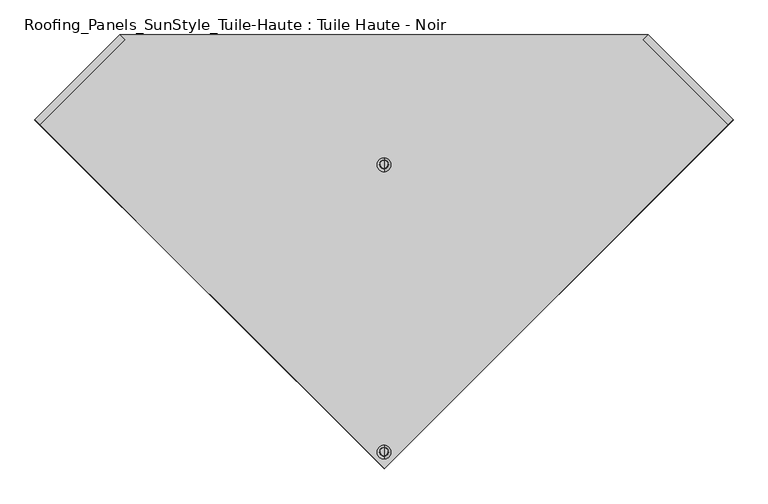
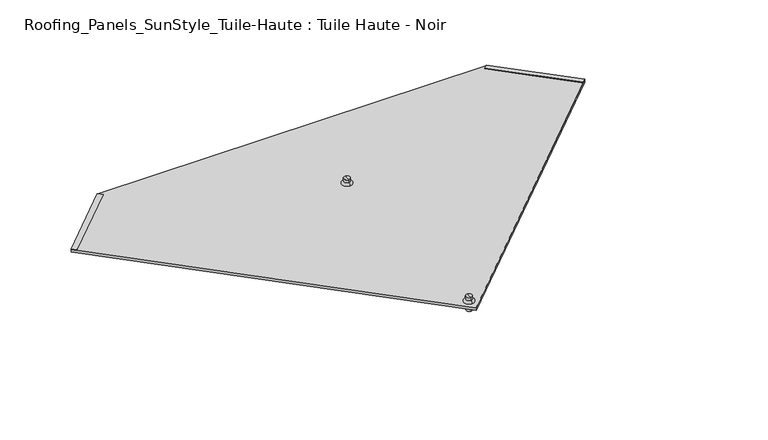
"""IFC4 building model written with IfcOpenShell, lengths in millimetres: proxy geometry, Roofing_Panels_SunStyle_Tuile-Haute : Tuile Haute - Noir."""

import ifcopenshell
import ifcopenshell.guid

model = None  # the IFC model being written
_history = None  # IfcOwnerHistory: only IFC2X3 demands one
_inside = {}  # id of a spatial element -> (the spatial element, [elements in it])
_under = {}  # id of a project, library or spatial element -> (it, [spatial elements below it])
_declared = {}  # id of a project -> (the project, [libraries it declares])
_typed = {}  # id of a type object -> (the type object, [elements of that type])
_made_of = {}  # id of a material, layer set ... -> (it, [elements and type objects made of it])


def new_model(schema):
    """Start an empty IFC model of exactly this schema.

    Asked for "IFC4X3", IfcOpenShell would pick the latest addendum, in which some entities
    have other attributes; the version numbers below select the first issue.
    IFC2X3 requires an IfcOwnerHistory on every rooted entity: one is made here for all.
    """
    global model, _history
    if schema == "IFC4X3":
        model = ifcopenshell.file(schema_version=(4, 3, 0, 0))
    else:
        model = ifcopenshell.file(schema=schema)
    _inside.clear()
    _under.clear()
    _declared.clear()
    _typed.clear()
    _made_of.clear()
    _history = None
    if model.schema == "IFC2X3":
        org = make("IfcOrganization", Name="unknown")
        user = make(
            "IfcPersonAndOrganization",
            ThePerson=make("IfcPerson", FamilyName="unknown"),
            TheOrganization=org,
        )
        app = make(
            "IfcApplication",
            ApplicationDeveloper=org,
            Version="unknown",
            ApplicationFullName="unknown",
            ApplicationIdentifier="unknown",
        )
        _history = make(
            "IfcOwnerHistory",
            OwningUser=user,
            OwningApplication=app,
            ChangeAction="ADDED",
            CreationDate=0,
        )
    return model


def make(cls, **values):
    """One entity of the class cls with the attributes given. An attribute that is None is left unset."""
    return model.create_entity(
        cls, **{name: value for name, value in values.items() if value is not None}
    )


def rooted(cls, **values):
    """An entity with a GlobalId (a new one), such as an element, a storey or a relation."""
    return make(cls, GlobalId=ifcopenshell.guid.new(), OwnerHistory=_history, **values)


def si_unit(unit_type, name, prefix=None):
    """IfcSIUnit, for example si_unit("LENGTHUNIT", "METRE", prefix="MILLI")."""
    return make("IfcSIUnit", UnitType=unit_type, Prefix=prefix, Name=name)


def assignment(units):
    """IfcUnitAssignment: the units of a project."""
    return None if units is None else make("IfcUnitAssignment", Units=units)


def point(xyz):
    """IfcCartesianPoint."""
    return None if xyz is None else make("IfcCartesianPoint", Coordinates=xyz)


def direction(xyz):
    """IfcDirection."""
    return None if xyz is None else make("IfcDirection", DirectionRatios=xyz)


def frame(location, z_axis=None, x_axis=None):
    """IfcAxis2Placement3D, a coordinate frame: its origin and axes. An axis left out is left unset."""
    return make(
        "IfcAxis2Placement3D",
        Location=point(location),
        Axis=direction(z_axis),
        RefDirection=direction(x_axis),
    )


def frame_2d(location, x_axis=None):
    """IfcAxis2Placement2D, a coordinate frame in the plane: its origin and x axis."""
    return make(
        "IfcAxis2Placement2D", Location=point(location), RefDirection=direction(x_axis)
    )


def origin():
    """The frame at (0, 0, 0) with its axes left unset."""
    return frame((0.0, 0.0, 0.0))


def place(relative_to, where):
    """IfcLocalPlacement: puts the frame where relative to a parent placement (None: the world)."""
    return make(
        "IfcLocalPlacement", PlacementRelTo=relative_to, RelativePlacement=where
    )


def context(
    kind, dimensions, precision=None, world=None, true_north=None, identifier=None
):
    """IfcGeometricRepresentationContext, for example the 3D "Model" context."""
    return make(
        "IfcGeometricRepresentationContext",
        ContextIdentifier=identifier,
        ContextType=kind,
        CoordinateSpaceDimension=dimensions,
        Precision=precision,
        WorldCoordinateSystem=world,
        TrueNorth=true_north,
    )


def project(units=None, contexts=None):
    """IfcProject with its units and contexts."""
    return rooted(
        "IfcProject",
        Name="project",
        RepresentationContexts=contexts,
        UnitsInContext=assignment(units),
    )


def spatial(cls, under=None, at=None, **own):
    """A site, building, storey or space (cls), placed at a placement, below another one or the project."""
    s = rooted(cls, ObjectPlacement=at, **own)
    if under is not None:
        _under.setdefault(under.id(), (under, []))[1].append(s)
    return s


def polyline(points):
    """IfcPolyline through the points."""
    return make("IfcPolyline", Points=[point(p) for p in points])


def circle_curve(where, radius):
    """IfcCircle in the frame where."""
    return make("IfcCircle", Position=where, Radius=radius)


def ellipse_curve(where, semi_axis1, semi_axis2):
    """IfcEllipse in the frame where."""
    return make(
        "IfcEllipse", Position=where, SemiAxis1=semi_axis1, SemiAxis2=semi_axis2
    )


def trimmed(basis, trim1, trim2, sense, master):
    """IfcTrimmedCurve: the piece of a basis curve between two trims."""
    return make(
        "IfcTrimmedCurve",
        BasisCurve=basis,
        Trim1=trim1,
        Trim2=trim2,
        SenseAgreement=sense,
        MasterRepresentation=master,
    )


def segment(curve, same_sense, transition):
    """IfcCompositeCurveSegment."""
    return make(
        "IfcCompositeCurveSegment",
        Transition=transition,
        SameSense=same_sense,
        ParentCurve=curve,
    )


def composite_curve(segments, self_intersect=None):
    """IfcCompositeCurve: segments joined end to end."""
    return make("IfcCompositeCurve", Segments=segments, SelfIntersect=self_intersect)


def outline(outer, holes=None, kind="AREA"):
    """IfcArbitraryClosedProfileDef: a profile drawn as a closed curve; with holes, ...WithVoids."""
    if holes is None:
        return make("IfcArbitraryClosedProfileDef", ProfileType=kind, OuterCurve=outer)
    return make(
        "IfcArbitraryProfileDefWithVoids",
        ProfileType=kind,
        OuterCurve=outer,
        InnerCurves=holes,
    )


def extrude(swept, where, along, depth):
    """IfcExtrudedAreaSolid: the profile swept, set in the frame where, extruded along a direction by depth."""
    return make(
        "IfcExtrudedAreaSolid",
        SweptArea=swept,
        Position=where,
        ExtrudedDirection=direction(along),
        Depth=depth,
    )


def shape(context_of_items, identifier, shape_type, items):
    """IfcShapeRepresentation: the items that make up one representation, for example the "Body"."""
    return make(
        "IfcShapeRepresentation",
        ContextOfItems=context_of_items,
        RepresentationIdentifier=identifier,
        RepresentationType=shape_type,
        Items=items,
    )


def source(mapping_origin, context_of_items, identifier, shape_type, items):
    """IfcRepresentationMap: a shape defined once, which mapped items show again and again."""
    return make(
        "IfcRepresentationMap",
        MappingOrigin=mapping_origin,
        MappedRepresentation=shape(context_of_items, identifier, shape_type, items),
    )


def transform(
    local_origin,
    x_axis=None,
    y_axis=None,
    z_axis=None,
    scale=None,
    scale2=None,
    scale3=None,
    uniform=True,
):
    """IfcCartesianTransformationOperator3D, or its non-uniform kind. x_axis, y_axis, z_axis: its Axis1, 2, 3."""
    if uniform:
        return make(
            "IfcCartesianTransformationOperator3D",
            Axis1=direction(x_axis),
            Axis2=direction(y_axis),
            LocalOrigin=point(local_origin),
            Scale=scale,
            Axis3=direction(z_axis),
        )
    return make(
        "IfcCartesianTransformationOperator3DnonUniform",
        Axis1=direction(x_axis),
        Axis2=direction(y_axis),
        LocalOrigin=point(local_origin),
        Scale=scale,
        Axis3=direction(z_axis),
        Scale2=scale2,
        Scale3=scale3,
    )


def mapped(mapping_source, mapping_target):
    """IfcMappedItem: shows the shape of a source again, moved by a transform."""
    return make(
        "IfcMappedItem", MappingSource=mapping_source, MappingTarget=mapping_target
    )


def made_of(thing, what):
    """Note that an element or type object is made of a material, layer set ...; save() writes the relation."""
    if what is not None:
        _made_of.setdefault(what.id(), (what, []))[1].append(thing)
    return thing


def element(
    cls,
    number,
    at=None,
    inside=None,
    cuts=None,
    type_object=None,
    material=None,
    context=None,
    identifier="Body",
    shape_type=None,
    held_by="IfcProductDefinitionShape",
    body=None,
    shapes=None,
    **own,
):
    """One element of the class cls, such as IfcWall. Its Tag is "e" and its number.

    at: its placement. inside: the storey or other place that contains it. cuts: it is an
    opening in that element (IfcRelVoidsElement). A single representation is given by context,
    identifier, shape_type and body (its items); several are given by shapes. held_by: the class
    of the entity that holds the representations. save() writes the other relations.
    """
    e = rooted(cls, Tag="e%d" % number, ObjectPlacement=at, **own)
    if body is not None:
        shapes = [shape(context, identifier, shape_type, body)]
    if shapes is not None:
        e.Representation = make(held_by, Representations=shapes)
    if inside is not None:
        _inside.setdefault(inside.id(), (inside, []))[1].append(e)
    if cuts is not None:
        rooted(
            "IfcRelVoidsElement", RelatingBuildingElement=cuts, RelatedOpeningElement=e
        )
    if type_object is not None:
        _typed.setdefault(type_object.id(), (type_object, []))[1].append(e)
    return made_of(e, material)


def aggregate(whole, parts):
    """IfcRelAggregates: a whole, such as a stair, and the parts it consists of."""
    return rooted("IfcRelAggregates", RelatingObject=whole, RelatedObjects=parts)


def save(model, path):
    """Write the relations noted so far, then the file.

    IfcRelAggregates (storeys below a building ...), IfcRelContainedInSpatialStructure (elements
    in a storey), IfcRelDefinesByType, IfcRelAssociatesMaterial and IfcRelDeclares: one each for
    every whole, place, type object, material and project.
    """
    for whole, parts in _under.values():
        aggregate(whole, parts)
    for where, things in _inside.values():
        rooted(
            "IfcRelContainedInSpatialStructure",
            RelatedElements=things,
            RelatingStructure=where,
        )
    for kind, things in _typed.values():
        rooted("IfcRelDefinesByType", RelatedObjects=things, RelatingType=kind)
    for what, things in _made_of.values():
        rooted("IfcRelAssociatesMaterial", RelatedObjects=things, RelatingMaterial=what)
    for by, libraries in _declared.values():
        rooted("IfcRelDeclares", RelatingContext=by, RelatedDefinitions=libraries)
    model.write(path)


def plane_surface(at):
    """IfcPlane: the flat surface through the origin of the frame at, square to its z axis."""
    return make("IfcPlane", Position=at)


def cylinder_surface(at, radius):
    """IfcCylindricalSurface: all points at the distance radius from the z axis of the frame at."""
    return make("IfcCylindricalSurface", Position=at, Radius=radius)


def revolved_surface(curve, axis_point, axis_direction):
    """IfcSurfaceOfRevolution: the curve turned about the line through axis_point along axis_direction."""
    return make(
        "IfcSurfaceOfRevolution",
        SweptCurve=make("IfcArbitraryOpenProfileDef", ProfileType="CURVE", Curve=curve),
        AxisPosition=make("IfcAxis1Placement", Location=point(axis_point), Axis=direction(axis_direction)),
    )


def advanced_brep(points, edges, surfaces, faces):
    """IfcAdvancedBrep: a solid bounded by faces that lie on surfaces and meet in shared edges.

    An edge is (start, end): straight between two places in points (the first is 0);
    or (start, end, curve); or (start, end, curve, False) where it runs against its curve.
    A face is (place in surfaces, loops), or (place, loops, False) where it looks against
    its surface's normal. A loop lists edges by number (the first is 1), with a minus sign
    where the edge is run from its end to its start. The first loop is the outer one.
    """
    corners = [point(p) for p in points]
    vertices = [make("IfcVertexPoint", VertexGeometry=c) for c in corners]
    made = []
    for start, end, *more in edges:
        made.append(
            make(
                "IfcEdgeCurve",
                EdgeStart=vertices[start],
                EdgeEnd=vertices[end],
                EdgeGeometry=more[0] if more else make("IfcPolyline", Points=[corners[start], corners[end]]),
                SameSense=more[1] if len(more) > 1 else True,
            )
        )
    hull = []
    for where, loops, *sense in faces:
        bounds = []
        for j, loop in enumerate(loops):
            ring = [make("IfcOrientedEdge", EdgeElement=made[abs(k) - 1], Orientation=k > 0) for k in loop]
            bounds.append(
                make(
                    "IfcFaceOuterBound" if j == 0 else "IfcFaceBound",
                    Bound=make("IfcEdgeLoop", EdgeList=ring),
                    Orientation=True,
                )
            )
        hull.append(make("IfcAdvancedFace", Bounds=bounds, FaceSurface=surfaces[where], SameSense=sense[0] if sense else True))
    return make("IfcAdvancedBrep", Outer=make("IfcClosedShell", CfsFaces=hull))


def roofing_panels_sunstyle_tuile_haute_tuile_haute_noir_3c2a6519(model_context):
    return source(origin(), model_context, "Body", "SolidModel", [
        extrude(outline(polyline([(0.0, -11.9999999), (0.0, 0.0), (211.9535765, 0.0), (211.9535765, -11.9999999), (0.0, -11.9999999)])), frame((-615.2694709, -0.1135393, 16.3055258), z_axis=(0.0, 0.01674516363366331, 0.9998597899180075), x_axis=(0.7071563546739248, 0.7069580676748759, -0.011839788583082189)), (0.0, 0.0, 1.0), 1.5),
        advanced_brep(
        [(0.0, -85.8978443, 17.7421994), (0.0, -72.5647638, 17.5189035), (0.0, -72.9330728, -4.4729659), (0.0, -86.2661534, -4.2496699), (0.0, -91.3970731, 17.8342978), (0.0, -67.0655349, 17.4268051), (0.0, -86.4480768, 22.7481046), (0.0, -71.8472139, 22.5035765), (0.0, -79.0136169, 30.6287287), (0.0, -71.7131854, 30.5064647), (0.0, -86.3140484, 30.7509928), (0.0, -79.5996131, -4.3613179)],
        [
            (0, 1, circle_curve(frame((0.0, -79.231304, 17.6305515), z_axis=(0.0, -0.016745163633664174, -0.9998597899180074), x_axis=(0.0, 0.9998597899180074, -0.016745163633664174)), 6.6674751)),
            (1, 2),
            (2, 3, circle_curve(frame((0.0, -79.5996131, -4.3613179), z_axis=(0.0, 0.016745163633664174, 0.9998597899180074), x_axis=(0.0, 0.9998597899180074, -0.016745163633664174)), 6.6674751)),
            (3, 0),
            (1, 0, circle_curve(frame((0.0, -79.231304, 17.6305515), z_axis=(0.0, -0.016745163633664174, -0.9998597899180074), x_axis=(0.0, 0.9998597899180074, -0.016745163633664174)), 6.6674751)),
            (3, 2, circle_curve(frame((0.0, -79.5996131, -4.3613179), z_axis=(0.0, 0.016745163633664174, 0.9998597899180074), x_axis=(0.0, 0.9998597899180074, -0.016745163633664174)), 6.6674751)),
            (4, 5, circle_curve(frame((0.0, -79.231304, 17.6305515), z_axis=(0.0, -0.016745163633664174, -0.9998597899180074), x_axis=(0.0, 0.9998597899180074, -0.016745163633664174)), 12.1674751)),
            (5, 1),
            (0, 4),
            (5, 4, circle_curve(frame((0.0, -79.231304, 17.6305515), z_axis=(0.0, -0.016745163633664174, -0.9998597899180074), x_axis=(0.0, 0.9998597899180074, -0.016745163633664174)), 12.1674751)),
            (6, 7, circle_curve(frame((0.0, -79.1476454, 22.6258405), z_axis=(0.0, -0.016745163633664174, -0.9998597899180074), x_axis=(0.0, 0.9998597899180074, -0.016745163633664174)), 7.3014552)),
            (7, 5, circle_curve(frame((0.0, -72.1514118, 17.4268051), z_axis=(-1.0, 0.0, 0.0), x_axis=(0.0, -1.0, 0.0)), 5.0858769)),
            (4, 6, circle_curve(frame((0.0, -86.3140484, 17.663994), z_axis=(-1.0, 0.0, 0.0), x_axis=(0.0, 0.9994391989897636, -0.03348563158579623)), 5.0858769)),
            (7, 6, circle_curve(frame((0.0, -79.1476454, 22.6258405), z_axis=(0.0, -0.016745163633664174, -0.9998597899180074), x_axis=(0.0, 0.9998597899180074, -0.016745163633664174)), 7.3014552)),
            (8, 9),
            (9, 10, circle_curve(frame((0.0, -79.0136169, 30.6287287), z_axis=(0.0, 0.016745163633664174, 0.9998597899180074), x_axis=(0.0, 0.9998597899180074, -0.016745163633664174)), 7.3014552)),
            (10, 8),
            (10, 9, circle_curve(frame((0.0, -79.0136169, 30.6287287), z_axis=(0.0, 0.016745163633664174, 0.9998597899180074), x_axis=(0.0, 0.9998597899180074, -0.016745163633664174)), 7.3014552)),
            (2, 11),
            (11, 3),
            (9, 7),
            (6, 10),
        ],
        [
            cylinder_surface(frame((0.0, -79.0136169, 30.6287287), z_axis=(0.0, 0.016745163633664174, 0.9998597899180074), x_axis=(0.0, 0.9998597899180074, -0.016745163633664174)), 6.6674751),
            plane_surface(frame((0.0, -79.231304, 17.6305515), z_axis=(0.0, -0.016745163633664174, -0.9998597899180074), x_axis=(0.0, 0.9998597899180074, -0.016745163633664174))),
            revolved_surface(trimmed(ellipse_curve(frame((0.0, -72.1514118, 17.4268051), z_axis=(1.0, 0.0, 0.0), x_axis=(0.0, -1.0, 0.0)), 5.0858769, 5.0858769), [point((0.0, -67.0655349, 17.4268051))], [point((0.0, -71.8472139, 22.5035765))], True, "CARTESIAN"), (0.0, -79.0136169, 30.6287287), (0.0, 0.016745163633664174, 0.9998597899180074)),
            plane_surface(frame((0.0, -79.0136169, 30.6287287), z_axis=(0.0, 0.016745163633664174, 0.9998597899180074), x_axis=(0.0, 0.9998597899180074, -0.016745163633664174))),
            plane_surface(frame((0.0, -79.5996131, -4.3613179), z_axis=(0.0, -0.016745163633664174, -0.9998597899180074), x_axis=(0.0, 0.9998597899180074, -0.016745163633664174))),
            cylinder_surface(frame((0.0, -79.0136169, 30.6287287), z_axis=(0.0, 0.016745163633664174, 0.9998597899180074), x_axis=(0.0, 0.9998597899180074, -0.016745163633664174)), 7.3014552),
        ],
        [
            (0, [[1, 2, 3, 4]]),
            (0, [[5, -4, 6, -2]]),
            (1, [[7, 8, -1, 9]]),
            (1, [[10, -9, -5, -8]]),
            (2, [[11, 12, -7, 13]]),
            (2, [[14, -13, -10, -12]]),
            (3, [[15, 16, 17]]),
            (3, [[-17, 18, -15]]),
            (4, [[-3, 19, 20]]),
            (4, [[-6, -20, -19]]),
            (5, [[-16, 21, -11, 22]]),
            (5, [[-18, -22, -14, -21]]),
        ],
    ),
        advanced_brep(
        [(0.0, -592.202006, 26.2215343), (0.0, -578.8689254, 25.9982384), (0.0, -579.2372345, 4.0063691), (0.0, -592.5703151, 4.229665), (0.0, -597.7012348, 26.3136327), (0.0, -573.3696966, 25.90614), (0.0, -592.7522385, 31.2274395), (0.0, -578.1513756, 30.9829114), (0.0, -585.3177786, 39.1080636), (0.0, -578.0173471, 38.9857996), (0.0, -592.6182101, 39.2303277), (0.0, -585.9037748, 4.118017)],
        [
            (0, 1, circle_curve(frame((0.0, -585.5354657, 26.1098864), z_axis=(0.0, -0.016745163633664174, -0.9998597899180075), x_axis=(0.0, 0.9998597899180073, -0.01674516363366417)), 6.6674751)),
            (1, 2),
            (2, 3, circle_curve(frame((0.0, -585.9037748, 4.118017), z_axis=(0.0, 0.016745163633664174, 0.9998597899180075), x_axis=(0.0, 0.9998597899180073, -0.01674516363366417)), 6.6674751)),
            (3, 0),
            (1, 0, circle_curve(frame((0.0, -585.5354657, 26.1098864), z_axis=(0.0, -0.016745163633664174, -0.9998597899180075), x_axis=(0.0, 0.9998597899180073, -0.01674516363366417)), 6.6674751)),
            (3, 2, circle_curve(frame((0.0, -585.9037748, 4.118017), z_axis=(0.0, 0.016745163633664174, 0.9998597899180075), x_axis=(0.0, 0.9998597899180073, -0.01674516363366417)), 6.6674751)),
            (4, 5, circle_curve(frame((0.0, -585.5354657, 26.1098864), z_axis=(0.0, -0.016745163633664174, -0.9998597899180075), x_axis=(0.0, 0.9998597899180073, -0.01674516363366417)), 12.1674751)),
            (5, 1),
            (0, 4),
            (5, 4, circle_curve(frame((0.0, -585.5354657, 26.1098864), z_axis=(0.0, -0.016745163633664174, -0.9998597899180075), x_axis=(0.0, 0.9998597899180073, -0.01674516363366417)), 12.1674751)),
            (6, 7, circle_curve(frame((0.0, -585.451807, 31.1051755), z_axis=(0.0, -0.016745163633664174, -0.9998597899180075), x_axis=(0.0, 0.9998597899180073, -0.01674516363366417)), 7.3014552)),
            (7, 5, circle_curve(frame((0.0, -578.4555735, 25.90614), z_axis=(-1.0, 0.0, 0.0), x_axis=(0.0, -1.0, 0.0)), 5.0858769)),
            (4, 6, circle_curve(frame((0.0, -592.6182101, 26.1433289), z_axis=(-1.0, 0.0, 0.0), x_axis=(0.0, 0.9994391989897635, -0.03348563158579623)), 5.0858769)),
            (7, 6, circle_curve(frame((0.0, -585.451807, 31.1051755), z_axis=(0.0, -0.016745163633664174, -0.9998597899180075), x_axis=(0.0, 0.9998597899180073, -0.01674516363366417)), 7.3014552)),
            (8, 9),
            (9, 10, circle_curve(frame((0.0, -585.3177786, 39.1080636), z_axis=(0.0, 0.016745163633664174, 0.9998597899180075), x_axis=(0.0, 0.9998597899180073, -0.01674516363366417)), 7.3014552)),
            (10, 8),
            (10, 9, circle_curve(frame((0.0, -585.3177786, 39.1080636), z_axis=(0.0, 0.016745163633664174, 0.9998597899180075), x_axis=(0.0, 0.9998597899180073, -0.01674516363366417)), 7.3014552)),
            (2, 11),
            (11, 3),
            (9, 7),
            (6, 10),
        ],
        [
            cylinder_surface(frame((0.0, -585.3177786, 39.1080636), z_axis=(0.0, 0.01674516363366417, 0.9998597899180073), x_axis=(0.0, 0.9998597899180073, -0.01674516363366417)), 6.6674751),
            plane_surface(frame((0.0, -585.5354657, 26.1098864), z_axis=(0.0, -0.016745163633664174, -0.9998597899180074), x_axis=(0.0, 0.9998597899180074, -0.016745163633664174))),
            revolved_surface(trimmed(ellipse_curve(frame((0.0, -578.4555735, 25.90614), z_axis=(1.0, 0.0, 0.0), x_axis=(0.0, -1.0, 0.0)), 5.0858769, 5.0858769), [point((0.0, -573.3696966, 25.90614))], [point((0.0, -578.1513756, 30.9829114))], True, "CARTESIAN"), (0.0, -585.3177786, 39.1080636), (0.0, 0.01674516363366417, 0.9998597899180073)),
            plane_surface(frame((0.0, -585.3177786, 39.1080636), z_axis=(0.0, 0.016745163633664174, 0.9998597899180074), x_axis=(0.0, 0.9998597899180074, -0.016745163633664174))),
            plane_surface(frame((0.0, -585.9037748, 4.118017), z_axis=(0.0, -0.016745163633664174, -0.9998597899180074), x_axis=(0.0, 0.9998597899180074, -0.016745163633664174))),
            cylinder_surface(frame((0.0, -585.3177786, 39.1080636), z_axis=(0.0, 0.01674516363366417, 0.9998597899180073), x_axis=(0.0, 0.9998597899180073, -0.01674516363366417)), 7.3014552),
        ],
        [
            (0, [[1, 2, 3, 4]]),
            (0, [[5, -4, 6, -2]]),
            (1, [[7, 8, -1, 9]]),
            (1, [[10, -9, -5, -8]]),
            (2, [[11, 12, -7, 13]]),
            (2, [[14, -13, -10, -12]]),
            (3, [[15, 16, 17]]),
            (3, [[-17, 18, -15]]),
            (4, [[-3, 19, 20]]),
            (4, [[-6, -20, -19]]),
            (5, [[-16, 21, -11, 22]]),
            (5, [[-18, -22, -14, -21]]),
        ],
    ),
        extrude(outline(polyline([(0.0, -11.9999999), (0.0, 0.0), (211.9535765, 0.0), (211.9535765, -12.0), (0.0, -11.9999999)])), frame((606.7847845, -8.5982257, 16.4476231), z_axis=(0.0, 0.0167451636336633, 0.9998597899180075), x_axis=(-0.7071563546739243, 0.7069580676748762, -0.01183978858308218)), (0.0, 0.0, 1.0), 1.5),
        extrude(outline(polyline([(-0.0194642, 0.0), (149.8648543, -149.8633032), (-465.4042941, -765.0461847), (-1080.673765, -149.8629807), (-930.789769, 0.0), (-0.0194642, 0.0)]), holes=[composite_curve([segment(trimmed(circle_curve(frame_2d((-465.4046166, -735.3672387)), 8.0), [point((-473.4046166, -735.3672387))], [point((-457.4046166, -735.3672387))], True, "CARTESIAN"), True, "CONTINUOUS"), segment(trimmed(circle_curve(frame_2d((-465.4046166, -735.3672387)), 8.0), [point((-457.4046166, -735.3672387))], [point((-473.4046166, -735.3672387))], True, "CARTESIAN"), True, "CONTINUOUS")], self_intersect=False), composite_curve([segment(trimmed(circle_curve(frame_2d((-465.4046166, -228.9505355)), 8.0), [point((-473.4046166, -228.9505355))], [point((-457.4046166, -228.9505355))], True, "CARTESIAN"), True, "CONTINUOUS"), segment(trimmed(circle_curve(frame_2d((-465.4046166, -228.9505355)), 8.0), [point((-457.4046166, -228.9505355))], [point((-473.4046166, -228.9505355))], True, "CARTESIAN"), True, "CONTINUOUS")], self_intersect=False)]), frame((465.4046166, 149.6282806, 7.7968815), z_axis=(0.0, 0.01674516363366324, 0.9998597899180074), x_axis=(1.0, 0.0, 0.0)), (0.0, 0.0, 1.0), 6.0),
    ])


if __name__ == "__main__":
    model = new_model("IFC4")
    model_context = context("Model", 3, world=origin())
    ifc_project = project(units=[si_unit("LENGTHUNIT", "METRE", prefix="MILLI")], contexts=[model_context])
    site = spatial("IfcSite", under=ifc_project)
    building = spatial("IfcBuilding", under=site)
    placement = place(None, origin())
    roofing_panels_sunstyle_tuile_haute_tuile_haute_noir_shape = roofing_panels_sunstyle_tuile_haute_tuile_haute_noir_3c2a6519(model_context)
    element("IfcBuildingElementProxy", 1, Name="Roofing_Panels_SunStyle_Tuile-Haute : Tuile Haute - Noir", ObjectType="Roofing_Panels_SunStyle_Tuile-Haute : Tuile Haute - Noir", at=placement, inside=building, context=model_context, shape_type="MappedRepresentation", body=[
        mapped(roofing_panels_sunstyle_tuile_haute_tuile_haute_noir_shape, transform((0.0, 0.0, 0.0), x_axis=(1.0, 0.0, 0.0), y_axis=(0.0, 1.0, 0.0), z_axis=(0.0, 0.0, 1.0))),
    ])
    save(model, "model.ifc")
